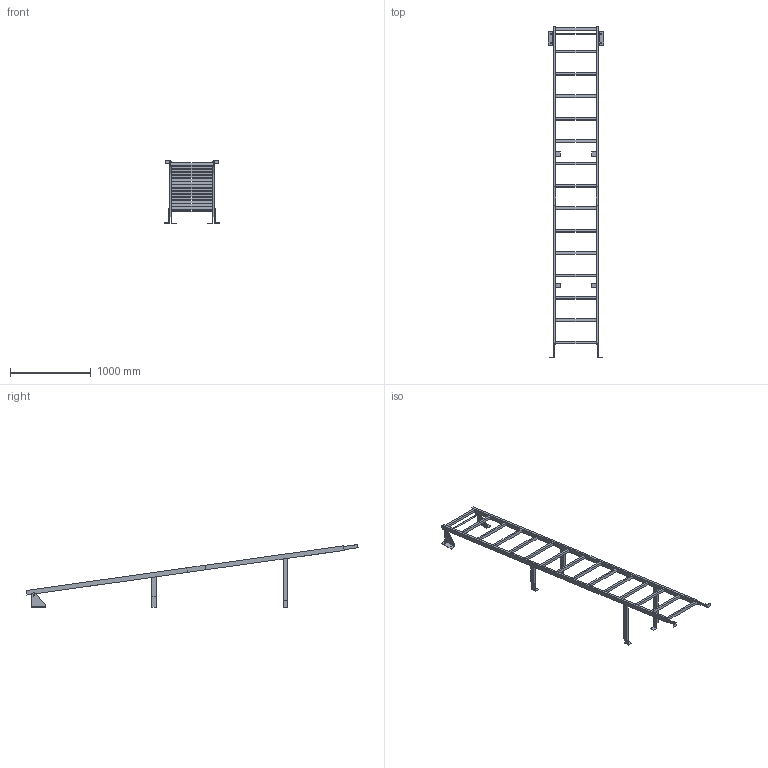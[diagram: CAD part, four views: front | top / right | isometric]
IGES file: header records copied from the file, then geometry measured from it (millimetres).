
Start section:  PTC IGES file: 52309783.igs
Global section: file name: 52309783.igs; native system: Creo Parametric by PTC Inc.; preprocessor: 2022162; author: wep; organization: Unknown; date: 20241017.090615; units: millimetre
Bounding box: 690 x 4110.42 x 779 mm (x, y, z)
Surface area: 2769095.6 mm2 (no closed solid volume)
Topology: 0 solids, 0 shells, 192 faces, 984 edges, 984 vertices
Faces by surface type: bspline 176, revolution 16
